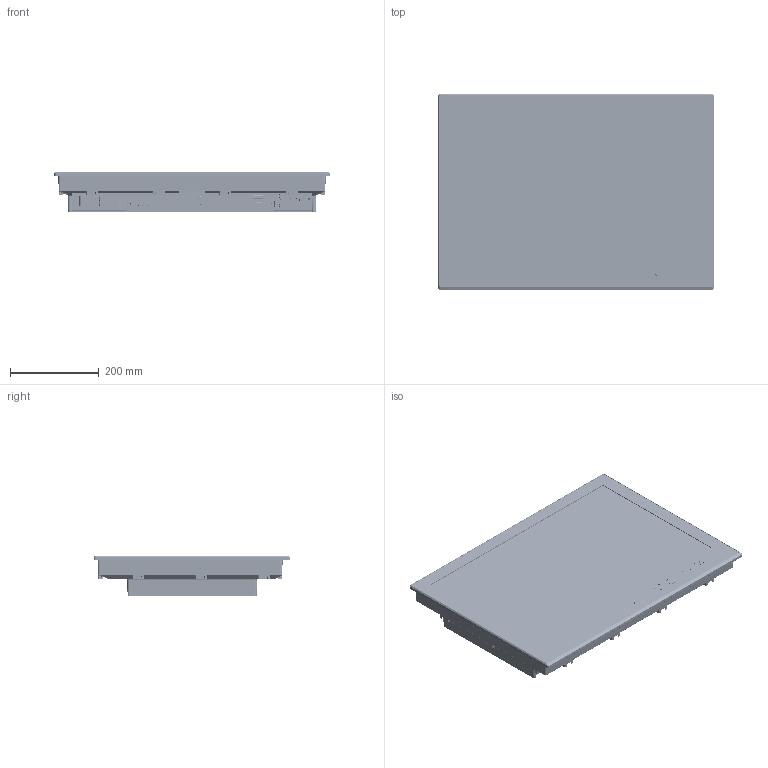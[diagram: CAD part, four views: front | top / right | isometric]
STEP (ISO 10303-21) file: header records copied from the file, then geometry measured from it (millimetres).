
FILE_DESCRIPTION((''),'2;1');
FILE_NAME('MPC-2260_SYSTEM-ASSEMBLY_ASM_ASM','2015-04-28T',('Justin_Huang'),(''),'PRO/ENGINEER BY PARAMETRIC TECHNOLOGY CORPORATION, 2013230','PRO/ENGINEER BY PARAMETRIC TECHNOLOGY CORPORATION, 2013230','');
FILE_SCHEMA(('AUTOMOTIVE_DESIGN { 1 0 10303 214 1 1 1 1 }'));
Products named in the file (70): MPC-2260_FRAME_64; INSERT_SCREW-SO-M3X6_3; INSERT_SCREW-SO-M3X3_5L_3; INSERT_SCREW-SO-M4X6_3; MPC-2260_TOUCH-TAPE-LR_10; MPC-2260_TOUCH-TAPE-BT_10; MPC-2260_FRAME_ASM_26_ASM; 26INCH-TOUCH_16; 26INCH-TOUCH-FILM_6; OSD_11; 26INCH-TOUCH_ASM_7_ASM; MPC-2240_FRAME_IO-BKT_10; PEM-NUT-M3_5; PEM-NUT-M5_4; PEM-NUT-M2_5_5; MPC-2240_FRAME_IO-BKT_ASM_4_ASM; MPC-2240_RPNL_14; PEM-NUT-M4_3; MPC-2240_RPNL_ASM_6_ASM; MPC-2240_HEAT_SINK_NOPIPE_4; STANDOFF_M3_37D0_5; STANDOFF_M3_17D0_5; STANDOFF_M3_7D0_5; PADPCH_5; PADGL_5; SCREW_4; BOSS_5; MPC-2240_HEAT_SINK_NOPIPE_ASM_3_ASM; ECHB381RM-10P_5; PCBA-UNMEA_ASM_6_ASM; MPC-2240_PCBA-DIO_ASM_6_ASM; MPC-2240_FRAME_MAIN-IO-BKT_10; MPC-2240_FRAME_MAIN-IO-BKT_ASM__ASM; 1126400251210_DB25_EX_3; AUDIO-2J_FOXCONN_JA2331-H2_EX_5; MH1061_PS2X2_EX_4; BREP_WITH_VOIDS_626664; MANIFOLD_SOLID_BREP_626752; MANIFOLD_SOLID_BREP_626840; MANIFOLD_SOLID_BREP_626928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
Assembly tree (172 placements, depth 6):
  MPC-2260_SYSTEM-ASSEMBLY_ASM_ASM
    MPC-2260_SYSTEM-ASSEMBLY_ASM_63_ASM
      MPC-2260_FRAME_ASM_26_ASM
        MPC-2260_FRAME_64
        INSERT_SCREW-SO-M3X6_3  x27
        INSERT_SCREW-SO-M3X3_5L_3  x25
        INSERT_SCREW-SO-M4X6_3  x14
        MPC-2260_TOUCH-TAPE-LR_10  x2
        MPC-2260_TOUCH-TAPE-BT_10  x2
      26INCH-TOUCH_ASM_7_ASM
        26INCH-TOUCH_16
        26INCH-TOUCH-FILM_6
        OSD_11
      MPC-2240_FRAME_IO-BKT_ASM_4_ASM
        MPC-2240_FRAME_IO-BKT_10
        PEM-NUT-M3_5  x4
        PEM-NUT-M5_4
        PEM-NUT-M2_5_5  x2
      MPC-2240_RPNL_ASM_6_ASM
        MPC-2240_RPNL_14
        PEM-NUT-M4_3  x6
      MPC-2240_IPC-MODULE_ASM_9_ASM
        MPC-2240_HEAT_SINK_NOPIPE_ASM_3_ASM
          MPC-2240_HEAT_SINK_NOPIPE_4
          STANDOFF_M3_37D0_5  x2
          STANDOFF_M3_17D0_5  x8
          STANDOFF_M3_7D0_5  x10
          PADPCH_5
          PADGL_5
          SCREW_4  x4
          BOSS_5  x2
        PCBA-UNMEA_ASM_6_ASM  x2
          ECHB381RM-10P_5
        MPC-2240_PCBA-DIO_ASM_6_ASM
        MPC-2240_FRAME_MAIN-IO-BKT_ASM__ASM
          MPC-2240_FRAME_MAIN-IO-BKT_10
          PEM-NUT-M3_5  x4
        1126400251210_DB25_EX_3
        MPC-2240_MAIN-BOARD-ASSEMBLY_AS_ASM
          AUDIO-2J_FOXCONN_JA2331-H2_EX_5
          MH1061_PS2X2_EX_4
          1126_DB9_M2X1_90D_DIP_4_ASM
            BREP_WITH_VOIDS_626664
            MANIFOLD_SOLID_BREP_626752
            MANIFOLD_SOLID_BREP_626840
            MANIFOLD_SOLID_BREP_626928
            MANIFOLD_SOLID_BREP_627016
            MANIFOLD_SOLID_BREP_627104
            MANIFOLD_SOLID_BREP_627192
            MANIFOLD_SOLID_BREP_627280
            MANIFOLD_SOLID_BREP_627368
            MANIFOLD_SOLID_BREP_627456
            MANIFOLD_SOLID_BREP_627544
          FOXCONN_USB_1X4_5
          1126412121210_RJ45_E5TAB_2X1_EX
          DVII_VGA-FC_QH1112X-DAGX-4F_6
          3_96MM-2P_4
        MC-4506_BACKPLATE_ASM_5_ASM
          MAM-5_5  x2
      MPC-2240_HDD-TRAY-ASM_ASM_7_ASM
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Bounding box: 621.03 x 444.03 x 90.8 mm (x, y, z)
Volume: 3644278.1 mm3; surface area: 2339025.1 mm2
Topology: 157 solids, 162 shells, 17788 faces, 48986 edges, 32159 vertices
Faces by surface type: plane 8680, cylinder 6443, bspline 925, cone 882, torus 643, extrusion 138, sphere 77
Entity records: 349918 total; most frequent: CARTESIAN_POINT 110995, DIRECTION 39096, ORIENTED_EDGE 38916, EDGE_CURVE 19458, AXIS2_PLACEMENT_3D 14436, VERTEX_POINT 12278, PRESENTATION_STYLE_ASSIGNMENT 11599, STYLED_ITEM 11545
